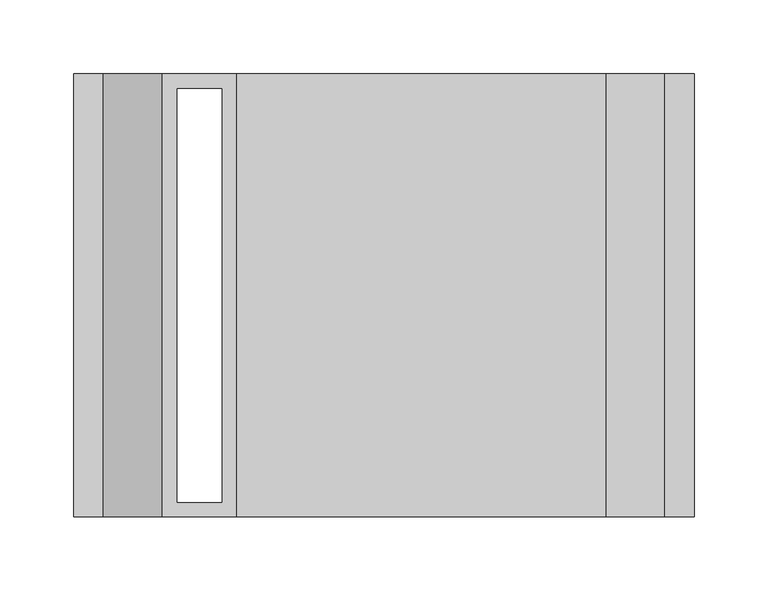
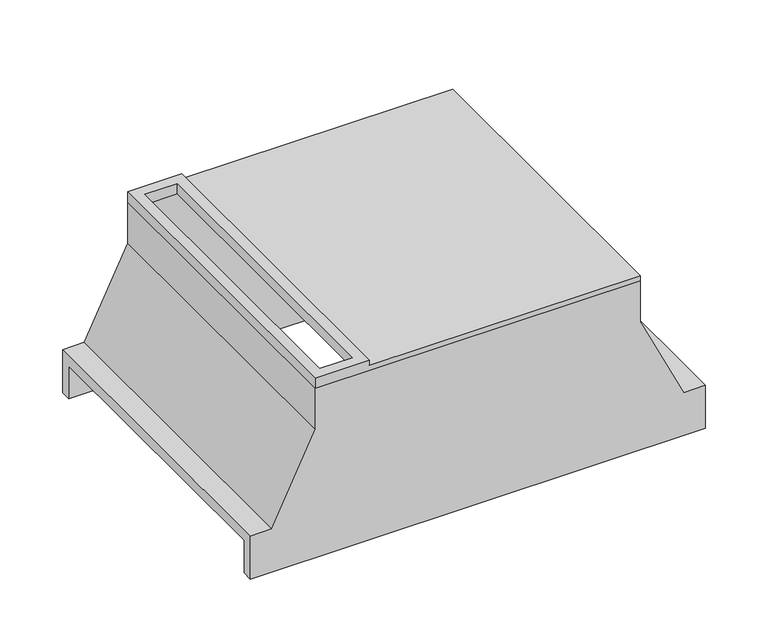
"""IFC4 building model written with IfcOpenShell, lengths in millimetres: cable carrier fitting geometry, BAKS_Universal tee : TRUNJ_H42."""

import ifcopenshell
import ifcopenshell.guid

model = None  # the IFC model being written
_history = None  # IfcOwnerHistory: only IFC2X3 demands one
_inside = {}  # id of a spatial element -> (the spatial element, [elements in it])
_under = {}  # id of a project, library or spatial element -> (it, [spatial elements below it])
_declared = {}  # id of a project -> (the project, [libraries it declares])
_typed = {}  # id of a type object -> (the type object, [elements of that type])
_made_of = {}  # id of a material, layer set ... -> (it, [elements and type objects made of it])


def new_model(schema):
    """Start an empty IFC model of exactly this schema.

    Asked for "IFC4X3", IfcOpenShell would pick the latest addendum, in which some entities
    have other attributes; the version numbers below select the first issue.
    IFC2X3 requires an IfcOwnerHistory on every rooted entity: one is made here for all.
    """
    global model, _history
    if schema == "IFC4X3":
        model = ifcopenshell.file(schema_version=(4, 3, 0, 0))
    else:
        model = ifcopenshell.file(schema=schema)
    _inside.clear()
    _under.clear()
    _declared.clear()
    _typed.clear()
    _made_of.clear()
    _history = None
    if model.schema == "IFC2X3":
        org = make("IfcOrganization", Name="unknown")
        user = make(
            "IfcPersonAndOrganization",
            ThePerson=make("IfcPerson", FamilyName="unknown"),
            TheOrganization=org,
        )
        app = make(
            "IfcApplication",
            ApplicationDeveloper=org,
            Version="unknown",
            ApplicationFullName="unknown",
            ApplicationIdentifier="unknown",
        )
        _history = make(
            "IfcOwnerHistory",
            OwningUser=user,
            OwningApplication=app,
            ChangeAction="ADDED",
            CreationDate=0,
        )
    return model


def make(cls, **values):
    """One entity of the class cls with the attributes given. An attribute that is None is left unset."""
    return model.create_entity(
        cls, **{name: value for name, value in values.items() if value is not None}
    )


def rooted(cls, **values):
    """An entity with a GlobalId (a new one), such as an element, a storey or a relation."""
    return make(cls, GlobalId=ifcopenshell.guid.new(), OwnerHistory=_history, **values)


def si_unit(unit_type, name, prefix=None):
    """IfcSIUnit, for example si_unit("LENGTHUNIT", "METRE", prefix="MILLI")."""
    return make("IfcSIUnit", UnitType=unit_type, Prefix=prefix, Name=name)


def assignment(units):
    """IfcUnitAssignment: the units of a project."""
    return None if units is None else make("IfcUnitAssignment", Units=units)


def point(xyz):
    """IfcCartesianPoint."""
    return None if xyz is None else make("IfcCartesianPoint", Coordinates=xyz)


def direction(xyz):
    """IfcDirection."""
    return None if xyz is None else make("IfcDirection", DirectionRatios=xyz)


def frame(location, z_axis=None, x_axis=None):
    """IfcAxis2Placement3D, a coordinate frame: its origin and axes. An axis left out is left unset."""
    return make(
        "IfcAxis2Placement3D",
        Location=point(location),
        Axis=direction(z_axis),
        RefDirection=direction(x_axis),
    )


def origin():
    """The frame at (0, 0, 0) with its axes left unset."""
    return frame((0.0, 0.0, 0.0))


def place(relative_to, where):
    """IfcLocalPlacement: puts the frame where relative to a parent placement (None: the world)."""
    return make(
        "IfcLocalPlacement", PlacementRelTo=relative_to, RelativePlacement=where
    )


def context(
    kind, dimensions, precision=None, world=None, true_north=None, identifier=None
):
    """IfcGeometricRepresentationContext, for example the 3D "Model" context."""
    return make(
        "IfcGeometricRepresentationContext",
        ContextIdentifier=identifier,
        ContextType=kind,
        CoordinateSpaceDimension=dimensions,
        Precision=precision,
        WorldCoordinateSystem=world,
        TrueNorth=true_north,
    )


def project(units=None, contexts=None):
    """IfcProject with its units and contexts."""
    return rooted(
        "IfcProject",
        Name="project",
        RepresentationContexts=contexts,
        UnitsInContext=assignment(units),
    )


def spatial(cls, under=None, at=None, **own):
    """A site, building, storey or space (cls), placed at a placement, below another one or the project."""
    s = rooted(cls, ObjectPlacement=at, **own)
    if under is not None:
        _under.setdefault(under.id(), (under, []))[1].append(s)
    return s


def faces_of(points, faces, orient=None, outer=None):
    """IfcFace entities. A face is a list of loops; a loop is a list of indices into points, from 0.

    orient and outer hold one flag for each loop. By default every Orientation is true, the
    first loop of a face is its IfcFaceOuterBound and the others are IfcFaceBound.
    """
    made = []
    for i, loops in enumerate(faces):
        bounds = []
        for j, loop in enumerate(loops):
            is_outer = j == 0 if outer is None else outer[i][j]
            bounds.append(
                make(
                    "IfcFaceOuterBound" if is_outer else "IfcFaceBound",
                    Bound=make("IfcPolyLoop", Polygon=[points[k] for k in loop]),
                    Orientation=True if orient is None else orient[i][j],
                )
            )
        made.append(make("IfcFace", Bounds=bounds))
    return made


def faceted_brep(points, faces, orient=None, outer=None, voids=None):
    """IfcFacetedBrep: a solid bounded by flat faces; with voids (closed shells), ...WithVoids."""
    shared = [point(p) for p in points]
    hull = make("IfcClosedShell", CfsFaces=faces_of(shared, faces, orient, outer))
    if voids is None:
        return make("IfcFacetedBrep", Outer=hull)
    return make(
        "IfcFacetedBrepWithVoids",
        Outer=hull,
        Voids=[
            make(cls, CfsFaces=faces_of(shared, fs, o, b)) for cls, fs, o, b in voids
        ],
    )


def shape(context_of_items, identifier, shape_type, items):
    """IfcShapeRepresentation: the items that make up one representation, for example the "Body"."""
    return make(
        "IfcShapeRepresentation",
        ContextOfItems=context_of_items,
        RepresentationIdentifier=identifier,
        RepresentationType=shape_type,
        Items=items,
    )


def source(mapping_origin, context_of_items, identifier, shape_type, items):
    """IfcRepresentationMap: a shape defined once, which mapped items show again and again."""
    return make(
        "IfcRepresentationMap",
        MappingOrigin=mapping_origin,
        MappedRepresentation=shape(context_of_items, identifier, shape_type, items),
    )


def transform(
    local_origin,
    x_axis=None,
    y_axis=None,
    z_axis=None,
    scale=None,
    scale2=None,
    scale3=None,
    uniform=True,
):
    """IfcCartesianTransformationOperator3D, or its non-uniform kind. x_axis, y_axis, z_axis: its Axis1, 2, 3."""
    if uniform:
        return make(
            "IfcCartesianTransformationOperator3D",
            Axis1=direction(x_axis),
            Axis2=direction(y_axis),
            LocalOrigin=point(local_origin),
            Scale=scale,
            Axis3=direction(z_axis),
        )
    return make(
        "IfcCartesianTransformationOperator3DnonUniform",
        Axis1=direction(x_axis),
        Axis2=direction(y_axis),
        LocalOrigin=point(local_origin),
        Scale=scale,
        Axis3=direction(z_axis),
        Scale2=scale2,
        Scale3=scale3,
    )


def mapped(mapping_source, mapping_target):
    """IfcMappedItem: shows the shape of a source again, moved by a transform."""
    return make(
        "IfcMappedItem", MappingSource=mapping_source, MappingTarget=mapping_target
    )


def made_of(thing, what):
    """Note that an element or type object is made of a material, layer set ...; save() writes the relation."""
    if what is not None:
        _made_of.setdefault(what.id(), (what, []))[1].append(thing)
    return thing


def element(
    cls,
    number,
    at=None,
    inside=None,
    cuts=None,
    type_object=None,
    material=None,
    context=None,
    identifier="Body",
    shape_type=None,
    held_by="IfcProductDefinitionShape",
    body=None,
    shapes=None,
    **own,
):
    """One element of the class cls, such as IfcWall. Its Tag is "e" and its number.

    at: its placement. inside: the storey or other place that contains it. cuts: it is an
    opening in that element (IfcRelVoidsElement). A single representation is given by context,
    identifier, shape_type and body (its items); several are given by shapes. held_by: the class
    of the entity that holds the representations. save() writes the other relations.
    """
    e = rooted(cls, Tag="e%d" % number, ObjectPlacement=at, **own)
    if body is not None:
        shapes = [shape(context, identifier, shape_type, body)]
    if shapes is not None:
        e.Representation = make(held_by, Representations=shapes)
    if inside is not None:
        _inside.setdefault(inside.id(), (inside, []))[1].append(e)
    if cuts is not None:
        rooted(
            "IfcRelVoidsElement", RelatingBuildingElement=cuts, RelatedOpeningElement=e
        )
    if type_object is not None:
        _typed.setdefault(type_object.id(), (type_object, []))[1].append(e)
    return made_of(e, material)


def aggregate(whole, parts):
    """IfcRelAggregates: a whole, such as a stair, and the parts it consists of."""
    return rooted("IfcRelAggregates", RelatingObject=whole, RelatedObjects=parts)


def save(model, path):
    """Write the relations noted so far, then the file.

    IfcRelAggregates (storeys below a building ...), IfcRelContainedInSpatialStructure (elements
    in a storey), IfcRelDefinesByType, IfcRelAssociatesMaterial and IfcRelDeclares: one each for
    every whole, place, type object, material and project.
    """
    for whole, parts in _under.values():
        aggregate(whole, parts)
    for where, things in _inside.values():
        rooted(
            "IfcRelContainedInSpatialStructure",
            RelatedElements=things,
            RelatingStructure=where,
        )
    for kind, things in _typed.values():
        rooted("IfcRelDefinesByType", RelatedObjects=things, RelatingType=kind)
    for what, things in _made_of.values():
        rooted("IfcRelAssociatesMaterial", RelatedObjects=things, RelatingMaterial=what)
    for by, libraries in _declared.values():
        rooted("IfcRelDeclares", RelatingContext=by, RelatedDefinitions=libraries)
    model.write(path)


def cable_carrier_fitting_0ce080ce(model_context):
    return source(origin(), model_context, "Body", "Brep", [
        faceted_brep([(150.0, -150.0, 149.0), (150.0, 150.0, 149.0), (-100.0, 150.0, 149.0), (-100.0, -150.0, 149.0), (150.0, -150.0, 144.0), (-150.0, -150.0, 144.0), (-150.0, 150.0, 144.0), (150.0, 150.0, 144.0), (-110.0, -140.0, 144.0), (-110.0, 140.0, 144.0), (-140.0, 140.0, 144.0), (-140.0, -140.0, 144.0), (-150.0, 150.0, 154.0), (-100.0, 150.0, 154.0), (-150.0, -150.0, 154.0), (-100.0, -150.0, 154.0), (-110.0, 140.0, 154.0), (-110.0, -140.0, 154.0), (-140.0, -140.0, 154.0), (-140.0, 140.0, 154.0)], [[[0, 1, 2, 3]], [[4, 5, 6, 7], [8, 9, 10, 11]], [[1, 0, 4, 7]], [[7, 6, 12, 13, 2, 1]], [[6, 5, 14, 12]], [[5, 4, 0, 3, 15, 14]], [[15, 13, 12, 14], [16, 17, 18, 19]], [[13, 15, 3, 2]], [[16, 9, 8, 17]], [[9, 16, 19, 10]], [[10, 19, 18, 11]], [[17, 8, 11, 18]]]),
        faceted_brep([(-210.0, -150.0, 21.0), (-210.0, -150.0, -21.0), (210.0, -150.0, -21.0), (210.0, -150.0, 21.0), (190.0, -150.0, 21.0), (150.0, -150.0, 104.0), (150.0, -150.0, 144.0), (-150.0, -150.0, 144.0), (-150.0, -150.0, 104.0), (-190.0, -150.0, 21.0), (-210.0, 150.0, 21.0), (-190.0, 150.0, 21.0), (-150.0, 150.0, 104.0), (-150.0, 150.0, 144.0), (150.0, 150.0, 144.0), (150.0, 150.0, 104.0), (190.0, 150.0, 21.0), (210.0, 150.0, 21.0), (210.0, 150.0, -21.0), (-210.0, 150.0, -21.0), (-210.0, 140.0, -21.0), (-210.0, 140.0, 11.0), (-210.0, -140.0, 11.0), (-210.0, -140.0, -21.0), (210.0, -140.0, -21.0), (210.0, 140.0, -21.0), (210.0, -140.0, 11.0), (210.0, 140.0, 11.0), (-140.0, 140.0, 144.0), (140.0, 140.0, 144.0), (140.0, -140.0, 144.0), (-140.0, -140.0, 144.0), (180.0, 140.0, 11.0), (140.0, 140.0, 104.0), (-140.0, 140.0, 104.0), (-180.0, 140.0, 11.0), (-140.0, -140.0, 104.0), (-180.0, -140.0, 11.0), (140.0, -140.0, 104.0), (180.0, -140.0, 11.0)], [[[0, 1, 2, 3, 4, 5, 6, 7, 8, 9]], [[10, 11, 12, 13, 14, 15, 16, 17, 18, 19]], [[1, 0, 10, 19, 20, 21, 22, 23]], [[2, 1, 23, 24]], [[19, 18, 25, 20]], [[3, 2, 24, 26, 27, 25, 18, 17]], [[4, 3, 17, 16]], [[5, 4, 16, 15]], [[6, 5, 15, 14]], [[7, 6, 14, 13], [28, 29, 30, 31]], [[8, 7, 13, 12]], [[9, 8, 12, 11]], [[0, 9, 11, 10]], [[32, 33, 29, 28, 34, 35, 21, 20, 25, 27]], [[35, 34, 36, 37]], [[37, 36, 31, 30, 38, 39, 26, 24, 23, 22]], [[33, 32, 39, 38]], [[34, 28, 31, 36]], [[29, 33, 38, 30]], [[21, 35, 37, 22]], [[32, 27, 26, 39]]]),
    ])


if __name__ == "__main__":
    model = new_model("IFC4")
    model_context = context("Model", 3, world=origin())
    ifc_project = project(units=[si_unit("LENGTHUNIT", "METRE", prefix="MILLI")], contexts=[model_context])
    site = spatial("IfcSite", under=ifc_project)
    building = spatial("IfcBuilding", under=site)
    placement = place(None, origin())
    cable_carrier_fitting_shape = cable_carrier_fitting_0ce080ce(model_context)
    element("IfcCableCarrierFitting", 1, ObjectType="BAKS_Universal tee : TRUNJ_H42", at=placement, inside=building, context=model_context, shape_type="MappedRepresentation", body=[
        mapped(cable_carrier_fitting_shape, transform((0.0, 0.0, 0.0), x_axis=(1.0, 0.0, 0.0), y_axis=(0.0, 1.0, 0.0), z_axis=(0.0, 0.0, 1.0))),
    ])
    save(model, "model.ifc")
